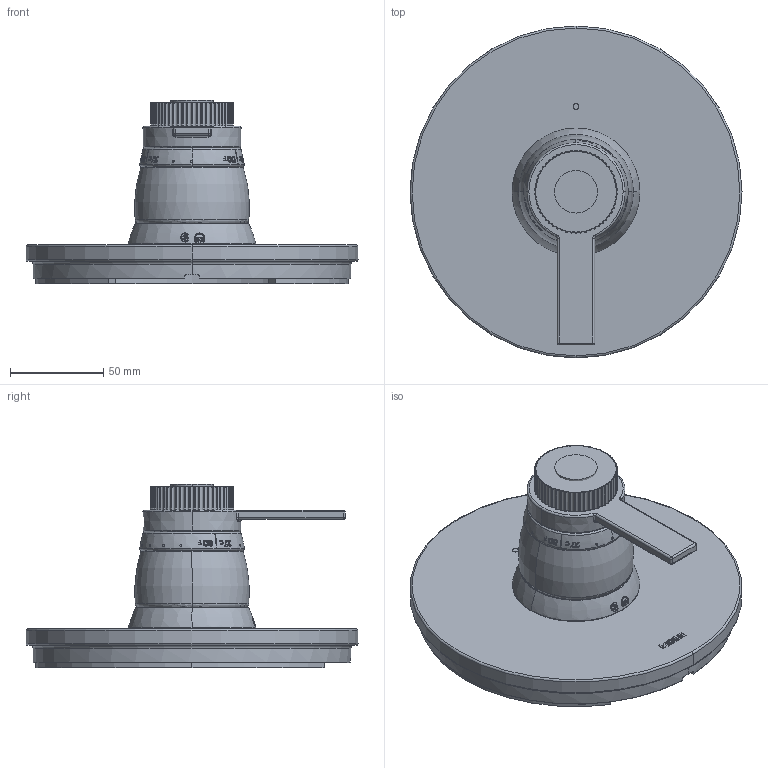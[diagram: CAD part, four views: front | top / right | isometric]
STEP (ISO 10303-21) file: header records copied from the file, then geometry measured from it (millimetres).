
FILE_DESCRIPTION (( 'STEP AP203' ), '1' );
FILE_NAME ('sku_ts5101series_stp.STEP', '2026-01-21T07:06:56', ( '' ), ( '' ), 'SwSTEP 2.0', 'SolidWorks 2025', '' );
FILE_SCHEMA (( 'CONFIG_CONTROL_DESIGN' ));
Length unit declared in the file: inch
Products named in the file (9): 166209SERIES_166209SERIES_Part19; 157224SERIES_157224SERIES_BREP_Part21; 216019SERIES_216019SERIES_Part31; sku_ts5101series_stp; 183727SERIES_183727SERIES_Assem7; 128567_128567_BREP_Part33; 216018SERIES_216018SERIES_Part29; 142885SERIES_142885SERIES_BREP_Part23; 96131_ALT_96131_Part20
Assembly tree (8 placements, depth 3):
  sku_ts5101series_stp
    183727SERIES_183727SERIES_Assem7
      166209SERIES_166209SERIES_Part19
      96131_ALT_96131_Part20
    157224SERIES_157224SERIES_BREP_Part21
    142885SERIES_142885SERIES_BREP_Part23
    216018SERIES_216018SERIES_Part29
    216019SERIES_216019SERIES_Part31
    128567_128567_BREP_Part33
Bounding box: 177.76 x 177.76 x 98.07 mm (x, y, z)
Volume: 232024 mm3; surface area: 138311.7 mm2
Topology: 9 solids, 9 shells, 2030 faces, 5123 edges, 3157 vertices
Faces by surface type: cylinder 676, bspline 608, torus 341, plane 290, cone 95, sphere 20
Entity records: 97873 total; most frequent: CARTESIAN_POINT 52761, ORIENTED_EDGE 10190, DIRECTION 8027, EDGE_CURVE 5095, AXIS2_PLACEMENT_3D 3257, VERTEX_POINT 3157, EDGE_LOOP 2114, FACE_OUTER_BOUND 2030
